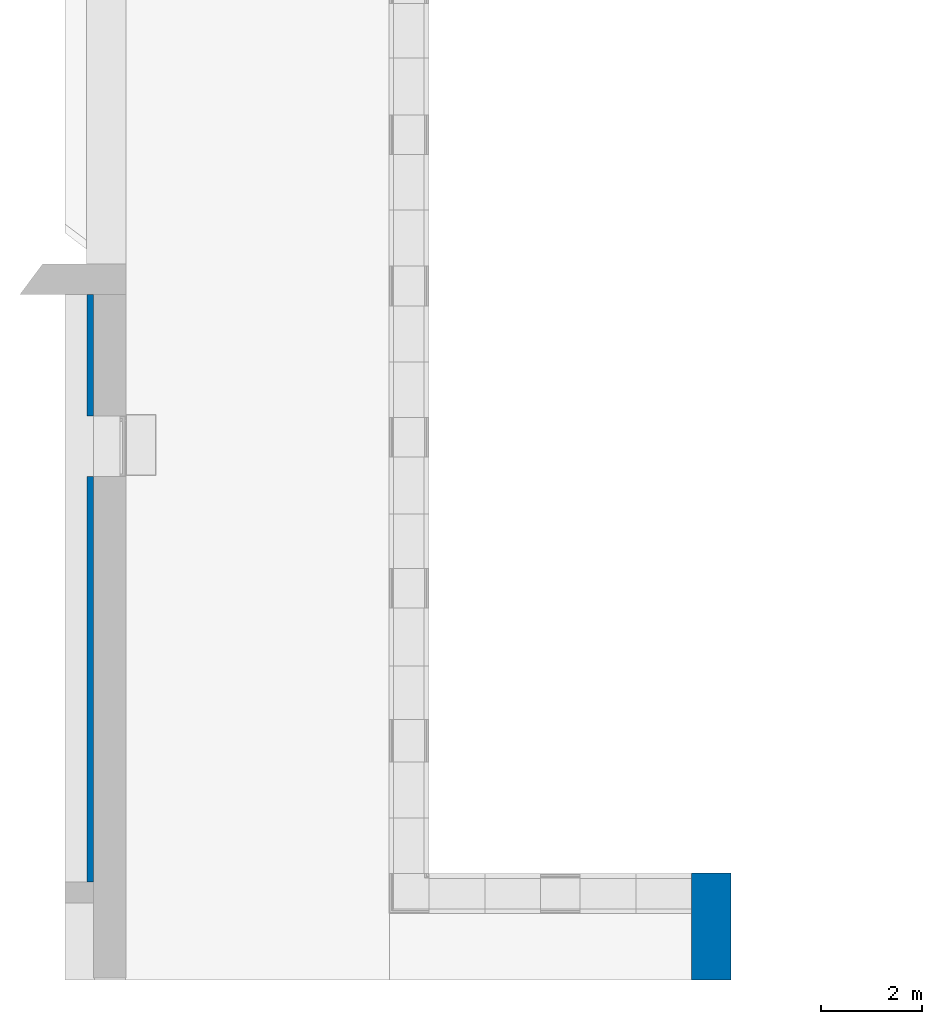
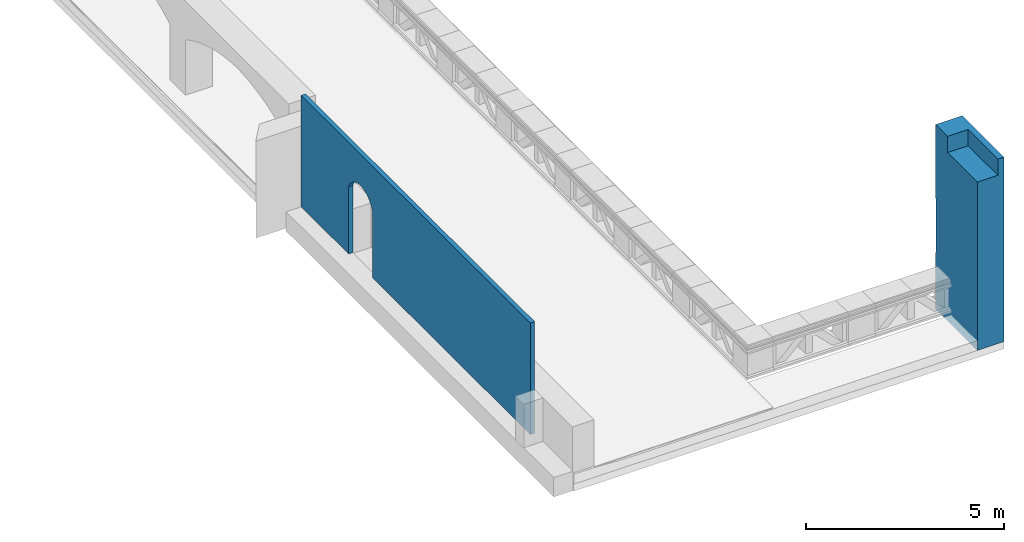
# One storey, part 3 of 9: 2 walls.
"""IFC2X3 building model written with IfcOpenShell, lengths in millimetres."""

from ifc_helpers import new_model, entity, si_unit, converted_unit, derived_unit, direction, frame, origin, place, context, subcontext, project, spatial, faceted_brep, material, layer, layer_set, type_object, element, save


model = new_model("IFC2X3")

# Units and contexts
model_context = context("Model", 3, precision=0.01, world=origin(), true_north=direction((6.123031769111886e-17, 1.0)))
body_context = subcontext(model_context, "Body", "Model", "MODEL_VIEW")
ifc_project = project(units=[si_unit("LENGTHUNIT", "METRE", prefix="MILLI"), si_unit("AREAUNIT", "SQUARE_METRE"), si_unit("VOLUMEUNIT", "CUBIC_METRE"), converted_unit("PLANEANGLEUNIT", "DEGREE", entity("IfcPlaneAngleMeasure", 0.017453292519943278), si_unit("PLANEANGLEUNIT", "RADIAN"), dimensions=[0, 0, 0, 0, 0, 0, 0]), si_unit("MASSUNIT", "GRAM", prefix="KILO"), derived_unit("MASSDENSITYUNIT", [(si_unit("MASSUNIT", "GRAM", prefix="KILO"), 1), (si_unit("LENGTHUNIT", "METRE"), -3)]), derived_unit("IONCONCENTRATIONUNIT", [(si_unit("MASSUNIT", "GRAM", prefix="KILO"), 1), (si_unit("LENGTHUNIT", "METRE"), -3)]), derived_unit("MOMENTOFINERTIAUNIT", [(si_unit("LENGTHUNIT", "METRE"), 4)]), si_unit("TIMEUNIT", "SECOND"), si_unit("FREQUENCYUNIT", "HERTZ"), si_unit("THERMODYNAMICTEMPERATUREUNIT", "DEGREE_CELSIUS"), derived_unit("THERMALTRANSMITTANCEUNIT", [(si_unit("MASSUNIT", "GRAM", prefix="KILO"), 1), (si_unit("THERMODYNAMICTEMPERATUREUNIT", "KELVIN"), -1), (si_unit("TIMEUNIT", "SECOND"), -3)]), derived_unit("THERMALCONDUCTANCEUNIT", [(si_unit("MASSUNIT", "GRAM", prefix="KILO"), 1), (si_unit("THERMODYNAMICTEMPERATUREUNIT", "KELVIN"), -1), (si_unit("TIMEUNIT", "SECOND"), -3), (si_unit("LENGTHUNIT", "METRE"), 1)]), derived_unit("VOLUMETRICFLOWRATEUNIT", [(si_unit("LENGTHUNIT", "METRE", prefix="DECI"), 3), (si_unit("TIMEUNIT", "SECOND"), -1)]), derived_unit("MASSFLOWRATEUNIT", [(si_unit("MASSUNIT", "GRAM", prefix="KILO"), 1), (si_unit("TIMEUNIT", "SECOND"), -1)]), derived_unit("ROTATIONALFREQUENCYUNIT", [(si_unit("TIMEUNIT", "SECOND"), -1)]), si_unit("ELECTRICCURRENTUNIT", "AMPERE"), si_unit("ELECTRICVOLTAGEUNIT", "VOLT"), si_unit("POWERUNIT", "WATT"), si_unit("FORCEUNIT", "NEWTON", prefix="KILO"), si_unit("ILLUMINANCEUNIT", "LUX"), si_unit("LUMINOUSFLUXUNIT", "LUMEN"), si_unit("LUMINOUSINTENSITYUNIT", "CANDELA"), si_unit("ENERGYUNIT", "JOULE"), derived_unit("USERDEFINED", [(si_unit("MASSUNIT", "GRAM", prefix="KILO"), -1), (si_unit("LENGTHUNIT", "METRE"), -2), (si_unit("TIMEUNIT", "SECOND"), 3), (si_unit("LUMINOUSFLUXUNIT", "LUMEN"), 1)]), derived_unit("USERDEFINED", [(si_unit("MASSUNIT", "GRAM", prefix="KILO"), 1), (si_unit("TIMEUNIT", "SECOND"), -3), (si_unit("LENGTHUNIT", "METRE"), 3), (si_unit("ELECTRICCURRENTUNIT", "AMPERE"), -2)]), derived_unit("SOUNDPOWERUNIT", [(si_unit("MASSUNIT", "GRAM", prefix="KILO"), 1), (si_unit("TIMEUNIT", "SECOND"), -3), (si_unit("LENGTHUNIT", "METRE"), 2)]), derived_unit("SOUNDPRESSUREUNIT", [(si_unit("MASSUNIT", "GRAM", prefix="KILO"), 1), (si_unit("LENGTHUNIT", "METRE"), -1), (si_unit("TIMEUNIT", "SECOND"), -2)]), derived_unit("LINEARVELOCITYUNIT", [(si_unit("LENGTHUNIT", "METRE"), 1), (si_unit("TIMEUNIT", "SECOND"), -1)]), si_unit("PRESSUREUNIT", "PASCAL"), derived_unit("USERDEFINED", [(si_unit("MASSUNIT", "GRAM", prefix="KILO"), 1), (si_unit("LENGTHUNIT", "METRE"), -2), (si_unit("TIMEUNIT", "SECOND"), -2)]), derived_unit("LINEARFORCEUNIT", [(si_unit("MASSUNIT", "GRAM", prefix="KILO"), 1), (si_unit("TIMEUNIT", "SECOND"), -2)]), derived_unit("PLANARFORCEUNIT", [(si_unit("MASSUNIT", "GRAM", prefix="KILO"), 1), (si_unit("LENGTHUNIT", "METRE"), -1), (si_unit("TIMEUNIT", "SECOND"), -2)]), derived_unit("SPECIFICHEATCAPACITYUNIT", [(si_unit("THERMODYNAMICTEMPERATUREUNIT", "KELVIN"), -1), (si_unit("LENGTHUNIT", "METRE"), 2), (si_unit("TIMEUNIT", "SECOND"), -2)]), derived_unit("HEATFLUXDENSITYUNIT", [(si_unit("MASSUNIT", "GRAM", prefix="KILO"), 1), (si_unit("TIMEUNIT", "SECOND"), -3)]), derived_unit("HEATINGVALUEUNIT", [(si_unit("LENGTHUNIT", "METRE"), 2), (si_unit("TIMEUNIT", "SECOND"), -2)]), derived_unit("VAPORPERMEABILITYUNIT", [(si_unit("LENGTHUNIT", "METRE"), -1), (si_unit("TIMEUNIT", "SECOND"), 1)]), derived_unit("DYNAMICVISCOSITYUNIT", [(si_unit("MASSUNIT", "GRAM", prefix="KILO"), 1), (si_unit("TIMEUNIT", "SECOND"), -1), (si_unit("LENGTHUNIT", "METRE"), -1)]), derived_unit("THERMALEXPANSIONCOEFFICIENTUNIT", [(si_unit("THERMODYNAMICTEMPERATUREUNIT", "KELVIN"), -1)]), derived_unit("MODULUSOFELASTICITYUNIT", [(si_unit("MASSUNIT", "GRAM", prefix="KILO"), 1), (si_unit("LENGTHUNIT", "METRE"), -1), (si_unit("TIMEUNIT", "SECOND"), -2)]), derived_unit("ISOTHERMALMOISTURECAPACITYUNIT", [(si_unit("MASSUNIT", "GRAM", prefix="KILO"), -1), (si_unit("LENGTHUNIT", "METRE"), 3)]), derived_unit("MOISTUREDIFFUSIVITYUNIT", [(si_unit("TIMEUNIT", "SECOND"), -1), (si_unit("LENGTHUNIT", "METRE"), 2)]), derived_unit("MASSPERLENGTHUNIT", [(si_unit("MASSUNIT", "GRAM", prefix="KILO"), 1), (si_unit("LENGTHUNIT", "METRE"), -1)]), derived_unit("THERMALRESISTANCEUNIT", [(si_unit("MASSUNIT", "GRAM", prefix="KILO"), -1), (si_unit("TIMEUNIT", "SECOND"), 3), (si_unit("THERMODYNAMICTEMPERATUREUNIT", "KELVIN"), 1)]), derived_unit("ACCELERATIONUNIT", [(si_unit("LENGTHUNIT", "METRE"), 1), (si_unit("TIMEUNIT", "SECOND"), -2)]), derived_unit("ANGULARVELOCITYUNIT", [(si_unit("TIMEUNIT", "SECOND"), -1), (si_unit("PLANEANGLEUNIT", "RADIAN"), 1)]), derived_unit("LINEARSTIFFNESSUNIT", [(si_unit("MASSUNIT", "GRAM", prefix="KILO"), 1), (si_unit("TIMEUNIT", "SECOND"), -2)]), derived_unit("WARPINGCONSTANTUNIT", [(si_unit("LENGTHUNIT", "METRE"), 6)]), derived_unit("LINEARMOMENTUNIT", [(si_unit("MASSUNIT", "GRAM", prefix="KILO"), 1), (si_unit("LENGTHUNIT", "METRE"), 1), (si_unit("TIMEUNIT", "SECOND"), -2)]), derived_unit("TORQUEUNIT", [(si_unit("MASSUNIT", "GRAM", prefix="KILO"), 1), (si_unit("LENGTHUNIT", "METRE"), 2), (si_unit("TIMEUNIT", "SECOND"), -2)])], contexts=[model_context])

# Site, building, storey
site_placement = place(None, origin())
site = spatial("IfcSite", under=ifc_project, at=site_placement, Name="Default", CompositionType="ELEMENT")
building_placement = place(site_placement, origin())
building = spatial("IfcBuilding", under=site, at=building_placement, Name="Eesti Rahvusraamatukogu hoone renoveerimise projekteerimistööd", CompositionType="ELEMENT")
storey_placement = place(building_placement, frame((0.0, 0.0, 3100.0)))
storey = spatial("IfcBuildingStorey", under=building, at=storey_placement, Name="E-korpus 2. korrus", CompositionType="ELEMENT", Elevation=3100.0)

# Walls
ifc_material_1 = material(Name="ol. olev materjal")
ifc_layer_1 = layer(ifc_material_1, 780.0)
ifc_layer_set_1 = layer_set([ifc_layer_1], Name="Basic Wall:ol. olev - 780mm")
wall_type_1 = type_object("IfcWallType", Name="Basic Wall:ol. olev - 780mm", PredefinedType="STANDARD", material=ifc_layer_set_1)
wall_1_placement = place(storey_placement, frame((-37020.0, -11935.0, 100.0), z_axis=(0.0, 0.0, 1.0), x_axis=(0.0, 1.0, 0.0)))
element("IfcWall", 1, at=wall_1_placement, inside=storey, type_object=wall_type_1, Name="Basic Wall:ol. olev - 780mm", ObjectType="Basic Wall:ol. olev - 780mm", context=body_context, shape_type="Brep", body=[
    faceted_brep([(10613.720209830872, 390.0, 0.0), (10613.720209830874, -390.0, 0.0), (10613.720209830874, -390.0, 5700.0), (10613.720209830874, -210.0, 5700.0), (10613.720209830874, -210.0, 5200.000000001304), (10613.720209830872, 390.0, 5200.000000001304), (12722.703590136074, -210.0, 4750.000000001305), (12722.703590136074, -210.0, 3414.359237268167), (12722.703590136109, -169.67443050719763, 3414.3592372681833), (12722.703590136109, -135.0, 3414.3592372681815), (12722.703590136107, -97.49999999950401, 3414.3592372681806), (12722.703590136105, -60.0, 3414.3592372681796), (12722.703590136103, -22.499999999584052, 3414.3592372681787), (12722.703590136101, 15.0, 3414.359237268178), (12722.703590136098, 52.500000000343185, 3414.359237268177), (12722.703590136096, 90.0, 3414.359237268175), (12722.703590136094, 124.67443050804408, 3414.359237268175), (12722.703590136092, 159.34886101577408, 3414.3592372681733), (12722.70359013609, 194.02329152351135, 3414.3592372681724), (12722.703590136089, 228.69772203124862, 3414.3592372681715), (12722.703590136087, 269.02329152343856, 3414.3592372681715), (12722.703590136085, 309.34886101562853, 3414.3592372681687), (12722.703590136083, 349.6744305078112, 3414.359237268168), (12722.703590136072, 390.0, 3414.3592372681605), (12722.703590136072, 390.0, 5700.0), (12722.703590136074, -390.0, 5700.0), (12722.703590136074, -390.0, 4750.000000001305), (12722.703590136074, -390.0, 1750.000000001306), (12722.703590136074, -390.0, 0.0), (12722.703590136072, 390.0, 0.0), (12722.703590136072, 390.0, 1750.0000000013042), (11935.0, -390.0, 0.0), (12715.0, -390.0, 0.0), (12715.0, -390.0, 1750.000000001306), (12715.0, -390.0, 4750.000000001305), (12715.0, 390.0, 0.0), (11935.0, 390.0, 0.0), (12115.0, 390.0, 5200.000000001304), (12115.0, 390.0, 5700.0), (12715.0, 390.0, 5700.0), (12718.850912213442, 390.0, 3412.1811788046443), (12715.0, 390.0, 3410.0000000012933), (12715.0, 390.0, 1750.000000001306), (12115.0, -210.0, 5700.0), (12115.0, -210.0, 5200.000000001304), (12715.0, -210.0, 4750.000000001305), (12715.0, -210.0, 3410.0000000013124), (12718.85091221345, -210.0, 3412.181178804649), (12715.0, 349.6744305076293, 3410.0000000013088), (12715.0, 309.3488610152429, 3410.0000000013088), (12715.0, 269.02329152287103, 3410.000000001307), (12715.0, 228.6977220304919, 3410.000000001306), (12715.0, 188.37215253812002, 3410.000000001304), (12715.0, 148.04658304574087, 3410.000000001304), (12715.0, 107.72101355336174, 3410.0000000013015), (12715.0, 67.3954440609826, 3410.0000000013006), (12715.0, 32.72101355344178, 3410.0000000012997), (12715.0, -1.9534169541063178, 3410.0000000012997), (12715.0, -36.62784746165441, 3410.0000000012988), (12715.0, -71.3022779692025, 3410.000000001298), (12715.0, -100.32556949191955, 3410.000000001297), (12715.0, -129.3488610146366, 3410.000000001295), (12715.0, -169.67443050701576, 3410.000000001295), (12718.282811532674, -181.16860764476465, 3411.8596623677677), (12719.107425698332, 142.01164573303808, 3412.32632317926), (12719.018376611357, 176.8315066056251, 3412.2759381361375), (12719.19775252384, 359.75582286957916, 3412.377428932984), (12718.650859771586, -88.3331671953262, 3412.067969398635), (12718.594406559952, -53.96506268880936, 3412.0360205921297), (12719.407756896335, 77.87590021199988, 3412.496237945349), (12718.850912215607, -152.33721528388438, 3412.181178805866), (12719.142649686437, 107.33721522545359, 3412.346252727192), (12718.850912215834, 329.51164573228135, 3412.181178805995), (12718.606152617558, -18.36062092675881, 3412.042668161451), (12718.559184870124, 15.383798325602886, 3412.0160869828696), (12718.850912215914, 289.1860762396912, 3412.1811788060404), (12718.850912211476, 248.86050680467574, 3412.1811788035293), (12718.85091221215, 214.18768109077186, 3412.1811788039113), (12719.199219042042, -120.24152686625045, 3412.378258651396), (12718.602486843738, 49.07790290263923, 3412.0405935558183)], [[[0, 1, 2, 3, 4, 5]], [[6, 7, 8, 9, 10, 11, 12, 13, 14, 15, 16, 17, 18, 19, 20, 21, 22, 23, 24, 25, 26]], [[27, 28, 29, 30]], [[1, 31, 32, 28, 27, 33, 34, 26, 25, 2]], [[29, 35, 36, 0, 5, 37, 38, 39, 24, 23, 40, 41, 42, 30]], [[31, 1, 0, 36, 35, 29, 28, 32]], [[3, 2, 25, 24, 39, 38, 43]], [[43, 44, 4, 3]], [[4, 44, 37, 5]], [[38, 37, 44, 43]], [[45, 46, 47, 7, 6]], [[45, 6, 26, 34]], [[42, 41, 48, 49, 50, 51, 52, 53, 54, 55, 56, 57, 58, 59, 60, 61, 62, 46, 45, 34, 33]], [[63, 47, 46]], [[17, 64, 65]], [[66, 48, 41]], [[11, 67, 68]], [[69, 15, 14]], [[8, 63, 70]], [[66, 40, 23]], [[15, 69, 71]], [[48, 66, 72]], [[64, 53, 65]], [[13, 73, 74]], [[52, 65, 53]], [[50, 49, 48, 72, 75, 76, 77, 52, 51]], [[70, 62, 61]], [[19, 18, 77, 76, 75, 72, 22, 21, 20]], [[70, 9, 8]], [[67, 10, 78]], [[10, 67, 11]], [[64, 71, 54]], [[63, 8, 7]], [[74, 56, 79]], [[74, 79, 13]], [[78, 9, 70]], [[56, 74, 57]], [[62, 70, 63]], [[68, 73, 12]], [[14, 13, 79]], [[13, 12, 73]], [[57, 74, 73]], [[58, 68, 59]], [[79, 56, 55]], [[73, 58, 57]], [[68, 58, 73]], [[67, 59, 68]], [[12, 11, 68]], [[61, 60, 78]], [[78, 70, 61]], [[16, 15, 71]], [[79, 55, 69]], [[16, 64, 17]], [[53, 64, 54]], [[65, 52, 77]], [[18, 17, 65]], [[16, 71, 64]], [[55, 54, 69]], [[66, 22, 72]], [[65, 77, 18]], [[9, 78, 10]], [[78, 60, 67]], [[54, 71, 69]], [[79, 69, 14]], [[60, 59, 67]], [[62, 63, 46]], [[7, 47, 63]], [[22, 66, 23]], [[41, 40, 66]], [[27, 30, 42, 33]]]),
])
ifc_material_2 = material(Name="EST. Ehitusplaat. Kipsplaat")
ifc_layer_2 = layer(ifc_material_2, 15.0)
ifc_material_3 = material(Name="EST. Ehitusplaat. OSB")
ifc_layer_3 = layer(ifc_material_3, 15.0)
ifc_material_4 = material(Name="EST. Õhkvahe. Roov. Kipsplaadi alusroov.Puit. Vertikaalne")
ifc_layer_4 = layer(ifc_material_4, 25.0)
ifc_material_5 = material(Name="EST. Soojustus.PIR. Default")
ifc_layer_5 = layer(ifc_material_5, 70.0)
ifc_layer_set_2 = layer_set([ifc_layer_2, ifc_layer_3, ifc_layer_4, ifc_layer_5], Name="Basic Wall:VS-02 - 125 sooj. läbiv")
wall_type_2 = type_object("IfcWallType", Name="Basic Wall:VS-02 - 125 sooj. läbiv", PredefinedType="STANDARD", material=ifc_layer_set_2)
wall_2_placement = place(storey_placement, frame((-49282.50000000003, 616.0, 505.0), z_axis=(0.0, 0.0, 1.0), x_axis=(0.0, 1.0, 0.0)))
element("IfcWall", 2, at=wall_2_placement, inside=storey, type_object=wall_type_2, Name="Basic Wall:VS-02 - 125 sooj. läbiv", ObjectType="Basic Wall:VS-02 - 125 sooj. läbiv", context=body_context, shape_type="Brep", body=[
    faceted_brep([(6157.200277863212, 62.500000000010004, 0.0), (6338.255359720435, 62.50000000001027, 0.0), (7999.0, 62.50000000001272, 0.0), (7999.0, -62.49999999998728, 0.0), (0.0, -62.499999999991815, 0.0), (0.0, 62.500000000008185, 0.0), (11474.0, 62.500000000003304, 0.0), (11599.0, 62.50000000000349, 0.0), (11599.0, -62.499999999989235, 0.0), (9199.0, -62.49999999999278, 0.0), (9199.0, 62.49999999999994, 0.0), (7999.0, -62.49999999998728, 1345.000000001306), (7999.0, -62.49999999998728, 2075.0), (8036.688827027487, -62.499999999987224, 2151.046231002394), (8083.9648624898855, -62.49999999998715, 2221.5334880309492), (8140.022066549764, -62.49999999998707, 2285.2599880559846), (8203.904683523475, -62.499999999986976, 2341.1392165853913), (8274.52353717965, -62.49999999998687, 2388.2184523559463), (8350.674600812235, -62.499999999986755, 2425.6950108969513), (8431.05952547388, -62.49999999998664, 2452.9299300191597), (8514.307776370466, -62.499999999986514, 2469.458863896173), (8599.0, -62.49999999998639, 2474.999999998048), (8683.692223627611, -62.49999999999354, 2469.458863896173), (8766.940474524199, -62.49999999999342, 2452.9299300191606), (8847.325399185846, -62.4999999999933, 2425.6950108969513), (8923.476462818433, -62.499999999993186, 2388.2184523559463), (8994.095316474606, -62.499999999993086, 2341.1392165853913), (9057.977933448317, -62.49999999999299, 2285.259988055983), (9114.035137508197, -62.49999999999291, 2221.5334880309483), (9161.311172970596, -62.49999999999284, 2151.0462310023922), (9199.0, -62.49999999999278, 2075.0), (9199.0, -62.49999999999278, 1345.000000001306), (11599.0, -62.499999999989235, 1345.000000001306), (11599.0, -62.499999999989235, 3445.000000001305), (0.0, -62.499999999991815, 3445.000000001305), (11474.0, 62.500000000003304, 3445.000000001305), (11599.0, 62.50000000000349, 3445.000000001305), (9199.0, 62.49999999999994, 2075.0), (9161.311172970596, 62.499999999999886, 2151.0462310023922), (9114.035137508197, 62.499999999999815, 2221.5334880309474), (9057.97793344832, 62.49999999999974, 2285.259988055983), (8994.095316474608, 62.49999999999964, 2341.1392165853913), (8923.476462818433, 62.49999999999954, 2388.2184523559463), (8847.325399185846, 62.499999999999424, 2425.6950108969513), (8766.940474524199, 62.499999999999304, 2452.9299300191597), (8683.692223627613, 62.49999999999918, 2469.458863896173), (8599.0, 62.50000000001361, 2474.999999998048), (8514.307776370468, 62.500000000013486, 2469.458863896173), (8431.059525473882, 62.50000000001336, 2452.9299300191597), (8350.674600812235, 62.500000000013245, 2425.6950108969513), (8274.52353717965, 62.50000000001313, 2388.2184523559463), (8203.904683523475, 62.500000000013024, 2341.1392165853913), (8140.022066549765, 62.50000000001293, 2285.2599880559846), (8083.9648624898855, 62.50000000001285, 2221.5334880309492), (8036.688827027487, 62.500000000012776, 2151.046231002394), (7999.0, 62.50000000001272, 2075.0), (0.0, 62.500000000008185, 3445.000000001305), (6157.200277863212, 62.500000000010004, 3445.000000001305), (6338.255359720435, 62.50000000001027, 3445.000000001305), (9199.0, 62.49999999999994, 3445.000000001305), (9349.0, 62.50000000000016, 3445.000000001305)], [[[0, 1, 2, 3, 4, 5]], [[6, 7, 8, 9, 10]], [[4, 3, 11, 12, 13, 14, 15, 16, 17, 18, 19, 20, 21, 22, 23, 24, 25, 26, 27, 28, 29, 30, 31, 9, 8, 32, 33, 34]], [[35, 36, 7, 6, 10, 37, 38, 39, 40, 41, 42, 43, 44, 45, 46, 47, 48, 49, 50, 51, 52, 53, 54, 55, 2, 1, 0, 5, 56, 57, 58, 59, 60]], [[33, 36, 35, 60, 59, 58, 57, 56, 34]], [[5, 4, 34, 56]], [[32, 8, 7, 36, 33]], [[11, 3, 2, 55, 12]], [[13, 12, 55, 54]], [[15, 14, 53, 52]], [[13, 54, 53, 14]], [[15, 52, 51, 16]], [[51, 50, 17, 16]], [[50, 49, 18, 17]], [[47, 46, 21, 20]], [[48, 47, 20, 19]], [[49, 48, 19, 18]], [[22, 21, 46, 45]], [[24, 23, 44, 43]], [[45, 44, 23, 22]], [[25, 24, 43, 42]], [[42, 41, 26, 25]], [[41, 40, 27, 26]], [[38, 37, 30, 29]], [[39, 38, 29, 28]], [[40, 39, 28, 27]], [[31, 30, 37, 10, 9]]]),
])

save(model, "model.ifc")
